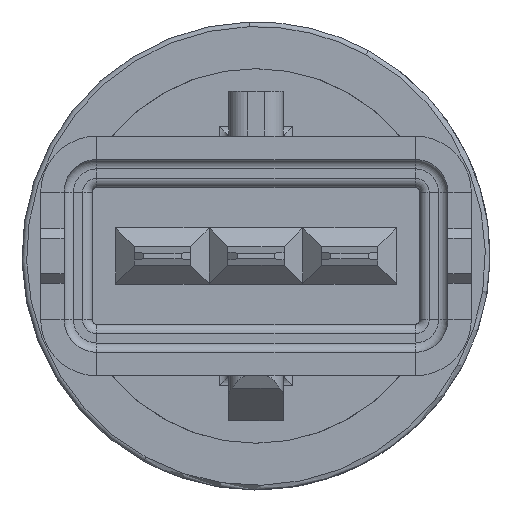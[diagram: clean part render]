
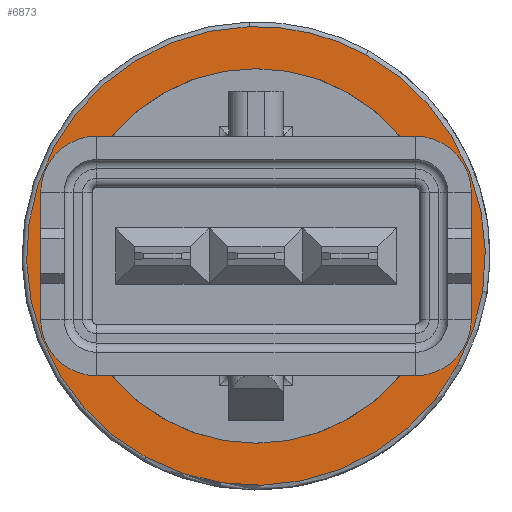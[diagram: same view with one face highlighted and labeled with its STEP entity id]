
A CAD part, left-side view. The second image highlights one B-rep face of the part: STEP entity #6873.
In plain terms, the highlighted planar face has unit normal (-1, 0, 0).
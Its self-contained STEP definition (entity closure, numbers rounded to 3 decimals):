
#6766=AXIS2_PLACEMENT_3D('Circle Axis2P3D',#6764,#6765,$) ;
#6804=AXIS2_PLACEMENT_3D('Circle Axis2P3D',#6802,#6803,$) ;
#6828=AXIS2_PLACEMENT_3D('Circle Axis2P3D',#6826,#6827,$) ;
#6848=AXIS2_PLACEMENT_3D('Plane Axis2P3D',#6845,#6846,#6847) ;
#6857=AXIS2_PLACEMENT_3D('Circle Axis2P3D',#6855,#6856,$) ;
#6866=AXIS2_PLACEMENT_3D('Circle Axis2P3D',#6864,#6865,$) ;
#6761=CARTESIAN_POINT('Vertex',(-31.5,-5.873,10.75)) ;
#6764=CARTESIAN_POINT('Axis2P3D Location',(-31.5,0.,0.)) ;
#6768=CARTESIAN_POINT('Vertex',(-31.5,5.873,-10.75)) ;
#6799=CARTESIAN_POINT('Vertex',(-31.5,0.366,12.245)) ;
#6802=CARTESIAN_POINT('Axis2P3D Location',(-31.5,0.,0.)) ;
#6826=CARTESIAN_POINT('Axis2P3D Location',(-31.5,0.,0.)) ;
#6845=CARTESIAN_POINT('Axis2P3D Location',(-31.5,0.,12.5)) ;
#6855=CARTESIAN_POINT('Axis2P3D Location',(-31.5,0.,0.)) ;
#6859=CARTESIAN_POINT('Vertex',(-31.5,-10.,0.)) ;
#6861=CARTESIAN_POINT('Vertex',(-31.5,10.,0.)) ;
#6864=CARTESIAN_POINT('Axis2P3D Location',(-31.5,0.,0.)) ;
#6765=DIRECTION('Axis2P3D Direction',(1.,0.,0.)) ;
#6803=DIRECTION('Axis2P3D Direction',(1.,0.,0.)) ;
#6827=DIRECTION('Axis2P3D Direction',(1.,0.,0.)) ;
#6846=DIRECTION('Axis2P3D Direction',(1.,0.,0.)) ;
#6847=DIRECTION('Axis2P3D XDirection',(0.,1.,0.)) ;
#6856=DIRECTION('Axis2P3D Direction',(1.,0.,0.)) ;
#6865=DIRECTION('Axis2P3D Direction',(1.,0.,0.)) ;
#6851=ORIENTED_EDGE('',*,*,#6830,.F.) ;
#6852=ORIENTED_EDGE('',*,*,#6806,.F.) ;
#6853=ORIENTED_EDGE('',*,*,#6770,.F.) ;
#6870=ORIENTED_EDGE('',*,*,#6863,.T.) ;
#6871=ORIENTED_EDGE('',*,*,#6868,.T.) ;
#6872=FACE_BOUND('',#6869,.T.) ;
#6873=ADVANCED_FACE('PartBody',(#6854,#6872),#6849,.F.) ;
#6767=CIRCLE('generated circle',#6766,12.25) ;
#6805=CIRCLE('generated circle',#6804,12.25) ;
#6829=CIRCLE('generated circle',#6828,12.25) ;
#6858=CIRCLE('generated circle',#6857,10.) ;
#6867=CIRCLE('generated circle',#6866,10.) ;
#6770=EDGE_CURVE('',#6762,#6769,#6767,.T.) ;
#6806=EDGE_CURVE('',#6769,#6800,#6805,.T.) ;
#6830=EDGE_CURVE('',#6800,#6762,#6829,.T.) ;
#6863=EDGE_CURVE('',#6860,#6862,#6858,.T.) ;
#6868=EDGE_CURVE('',#6862,#6860,#6867,.T.) ;
#6850=EDGE_LOOP('',(#6851,#6852,#6853)) ;
#6869=EDGE_LOOP('',(#6870,#6871)) ;
#6854=FACE_OUTER_BOUND('',#6850,.T.) ;
#6849=PLANE('Plane',#6848) ;
#6762=VERTEX_POINT('',#6761) ;
#6769=VERTEX_POINT('',#6768) ;
#6800=VERTEX_POINT('',#6799) ;
#6860=VERTEX_POINT('',#6859) ;
#6862=VERTEX_POINT('',#6861) ;
